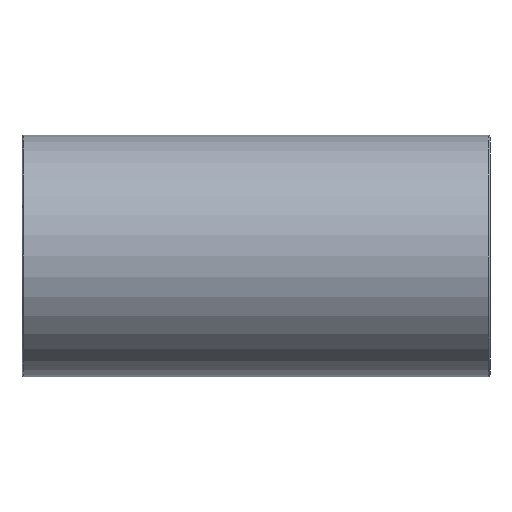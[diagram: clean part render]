
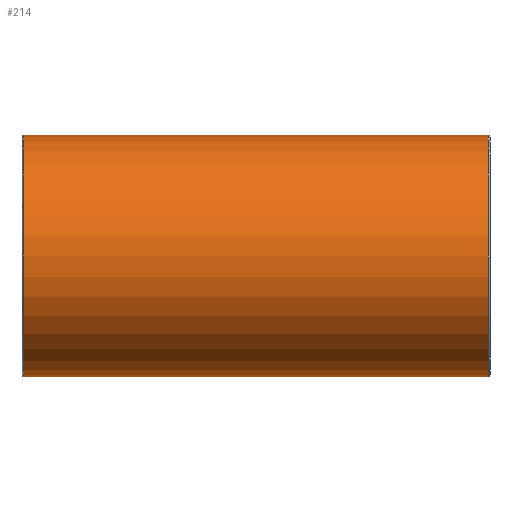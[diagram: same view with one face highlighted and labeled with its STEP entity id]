
A CAD part, front view. The second image highlights one B-rep face of the part: STEP entity #214.
In plain terms, the highlighted cylindrical face has radius 30.5 mm (diameter 61 mm), a full revolution.
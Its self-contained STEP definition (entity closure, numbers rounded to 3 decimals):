
#27=B_SPLINE_CURVE_WITH_KNOTS('',3,(#355,#356,#357,#358,#359,#360,#361,
#362,#363,#364,#365,#366,#367,#368,#369,#370,#371,#372,#373,#374,#375,#376,
#377,#378,#379,#380,#381,#382,#383,#384,#385,#386,#387,#388,#389,#390,#391,
#392,#393,#394,#395,#396,#397,#398,#399,#400,#401,#402,#403,#404,#405,#406,
#407,#408,#409,#410,#411,#412,#413,#414,#415,#416,#417,#418,#419,#420),
 .UNSPECIFIED.,.T.,.F.,(4,2,2,2,2,2,2,2,2,2,2,2,2,2,2,2,2,2,2,2,2,2,2,2,
2,2,2,2,2,2,2,2,4),(0.,0.405,0.81,1.215,
1.619,2.02,2.42,2.82,3.22,
3.62,4.021,4.421,4.821,5.226,
5.631,6.036,6.44,6.845,7.25,
7.655,8.06,8.46,8.86,9.26,
9.661,10.061,10.461,10.861,11.261,
11.666,12.071,12.476,12.881),
 .UNSPECIFIED.);
#29=FACE_BOUND('',#70,.T.);
#30=FACE_BOUND('',#71,.T.);
#50=FACE_OUTER_BOUND('',#69,.T.);
#69=EDGE_LOOP('',(#167));
#70=EDGE_LOOP('',(#168));
#71=EDGE_LOOP('',(#169));
#109=CIRCLE('',#236,30.5);
#110=CIRCLE('',#237,30.5);
#127=VERTEX_POINT('',#350);
#128=VERTEX_POINT('',#352);
#129=VERTEX_POINT('',#354);
#147=EDGE_CURVE('',#127,#127,#109,.T.);
#148=EDGE_CURVE('',#128,#128,#110,.T.);
#149=EDGE_CURVE('',#129,#129,#27,.T.);
#167=ORIENTED_EDGE('',*,*,#147,.F.);
#168=ORIENTED_EDGE('',*,*,#148,.F.);
#169=ORIENTED_EDGE('',*,*,#149,.F.);
#207=CYLINDRICAL_SURFACE('',#235,30.5);
#214=ADVANCED_FACE('',(#50,#29,#30),#207,.T.);
#235=AXIS2_PLACEMENT_3D('',#349,#274,#275);
#236=AXIS2_PLACEMENT_3D('',#351,#276,#277);
#237=AXIS2_PLACEMENT_3D('',#353,#278,#279);
#274=DIRECTION('center_axis',(1.,0.,0.));
#275=DIRECTION('ref_axis',(0.,1.,0.));
#276=DIRECTION('center_axis',(-1.,0.,0.));
#277=DIRECTION('ref_axis',(0.,-1.,0.));
#278=DIRECTION('center_axis',(1.,0.,0.));
#279=DIRECTION('ref_axis',(0.,-1.,0.));
#349=CARTESIAN_POINT('Origin',(0.,0.,
0.));
#350=CARTESIAN_POINT('',(-58.5,30.5,0.));
#351=CARTESIAN_POINT('Origin',(-58.5,0.,0.));
#352=CARTESIAN_POINT('',(58.5,30.5,0.));
#353=CARTESIAN_POINT('Origin',(58.5,0.,0.));
#354=CARTESIAN_POINT('',(0.,22.583,20.5));
#355=CARTESIAN_POINT('Ctrl Pts',(0.,22.583,
20.5));
#356=CARTESIAN_POINT('Ctrl Pts',(1.349,22.583,20.5));
#357=CARTESIAN_POINT('Ctrl Pts',(2.719,22.708,20.365));
#358=CARTESIAN_POINT('Ctrl Pts',(5.404,23.183,19.822));
#359=CARTESIAN_POINT('Ctrl Pts',(6.72,23.532,19.415));
#360=CARTESIAN_POINT('Ctrl Pts',(9.22,24.364,18.36));
#361=CARTESIAN_POINT('Ctrl Pts',(10.407,24.847,17.711));
#362=CARTESIAN_POINT('Ctrl Pts',(12.6,25.842,16.225));
#363=CARTESIAN_POINT('Ctrl Pts',(13.604,26.354,15.387));
#364=CARTESIAN_POINT('Ctrl Pts',(15.377,27.311,13.614));
#365=CARTESIAN_POINT('Ctrl Pts',(16.213,27.794,12.615));
#366=CARTESIAN_POINT('Ctrl Pts',(17.702,28.688,10.423));
#367=CARTESIAN_POINT('Ctrl Pts',(18.356,29.099,9.229));
#368=CARTESIAN_POINT('Ctrl Pts',(19.418,29.78,6.714));
#369=CARTESIAN_POINT('Ctrl Pts',(19.826,30.051,5.39));
#370=CARTESIAN_POINT('Ctrl Pts',(20.368,30.411,2.7));
#371=CARTESIAN_POINT('Ctrl Pts',(20.5,30.5,1.334));
#372=CARTESIAN_POINT('Ctrl Pts',(20.5,30.5,-1.334));
#373=CARTESIAN_POINT('Ctrl Pts',(20.368,30.411,-2.7));
#374=CARTESIAN_POINT('Ctrl Pts',(19.826,30.051,-5.39));
#375=CARTESIAN_POINT('Ctrl Pts',(19.418,29.78,-6.714));
#376=CARTESIAN_POINT('Ctrl Pts',(18.356,29.099,-9.229));
#377=CARTESIAN_POINT('Ctrl Pts',(17.702,28.688,-10.423));
#378=CARTESIAN_POINT('Ctrl Pts',(16.213,27.794,-12.615));
#379=CARTESIAN_POINT('Ctrl Pts',(15.377,27.311,-13.614));
#380=CARTESIAN_POINT('Ctrl Pts',(13.604,26.354,-15.387));
#381=CARTESIAN_POINT('Ctrl Pts',(12.6,25.842,-16.225));
#382=CARTESIAN_POINT('Ctrl Pts',(10.407,24.847,-17.711));
#383=CARTESIAN_POINT('Ctrl Pts',(9.22,24.364,-18.36));
#384=CARTESIAN_POINT('Ctrl Pts',(6.72,23.532,-19.415));
#385=CARTESIAN_POINT('Ctrl Pts',(5.404,23.183,-19.822));
#386=CARTESIAN_POINT('Ctrl Pts',(2.719,22.708,-20.365));
#387=CARTESIAN_POINT('Ctrl Pts',(1.349,22.583,-20.5));
#388=CARTESIAN_POINT('Ctrl Pts',(-1.349,22.583,-20.5));
#389=CARTESIAN_POINT('Ctrl Pts',(-2.719,22.708,-20.365));
#390=CARTESIAN_POINT('Ctrl Pts',(-5.404,23.183,-19.822));
#391=CARTESIAN_POINT('Ctrl Pts',(-6.72,23.532,-19.415));
#392=CARTESIAN_POINT('Ctrl Pts',(-9.22,24.364,-18.36));
#393=CARTESIAN_POINT('Ctrl Pts',(-10.407,24.847,-17.711));
#394=CARTESIAN_POINT('Ctrl Pts',(-12.6,25.842,-16.225));
#395=CARTESIAN_POINT('Ctrl Pts',(-13.604,26.354,-15.387));
#396=CARTESIAN_POINT('Ctrl Pts',(-15.377,27.311,-13.614));
#397=CARTESIAN_POINT('Ctrl Pts',(-16.213,27.794,-12.615));
#398=CARTESIAN_POINT('Ctrl Pts',(-17.702,28.688,-10.423));
#399=CARTESIAN_POINT('Ctrl Pts',(-18.356,29.099,-9.229));
#400=CARTESIAN_POINT('Ctrl Pts',(-19.418,29.78,-6.714));
#401=CARTESIAN_POINT('Ctrl Pts',(-19.826,30.051,-5.39));
#402=CARTESIAN_POINT('Ctrl Pts',(-20.368,30.411,-2.7));
#403=CARTESIAN_POINT('Ctrl Pts',(-20.5,30.5,-1.334));
#404=CARTESIAN_POINT('Ctrl Pts',(-20.5,30.5,1.334));
#405=CARTESIAN_POINT('Ctrl Pts',(-20.368,30.411,2.7));
#406=CARTESIAN_POINT('Ctrl Pts',(-19.826,30.051,5.39));
#407=CARTESIAN_POINT('Ctrl Pts',(-19.418,29.78,6.714));
#408=CARTESIAN_POINT('Ctrl Pts',(-18.356,29.099,9.229));
#409=CARTESIAN_POINT('Ctrl Pts',(-17.702,28.688,10.423));
#410=CARTESIAN_POINT('Ctrl Pts',(-16.213,27.794,12.615));
#411=CARTESIAN_POINT('Ctrl Pts',(-15.377,27.311,13.614));
#412=CARTESIAN_POINT('Ctrl Pts',(-13.604,26.354,15.387));
#413=CARTESIAN_POINT('Ctrl Pts',(-12.6,25.842,16.225));
#414=CARTESIAN_POINT('Ctrl Pts',(-10.407,24.847,17.711));
#415=CARTESIAN_POINT('Ctrl Pts',(-9.22,24.364,18.36));
#416=CARTESIAN_POINT('Ctrl Pts',(-6.72,23.532,19.415));
#417=CARTESIAN_POINT('Ctrl Pts',(-5.404,23.183,19.822));
#418=CARTESIAN_POINT('Ctrl Pts',(-2.719,22.708,20.365));
#419=CARTESIAN_POINT('Ctrl Pts',(-1.349,22.583,20.5));
#420=CARTESIAN_POINT('Ctrl Pts',(0.,22.583,
20.5));
